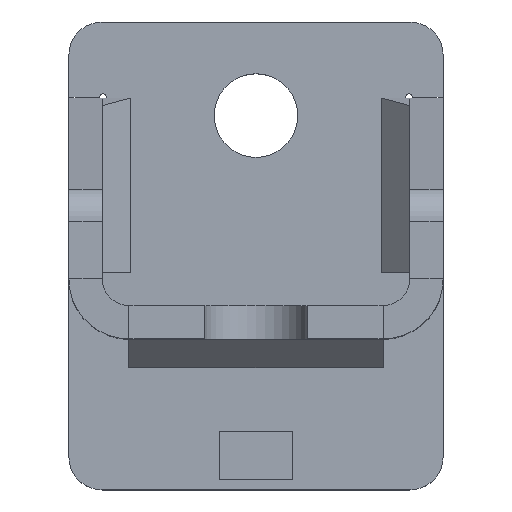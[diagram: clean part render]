
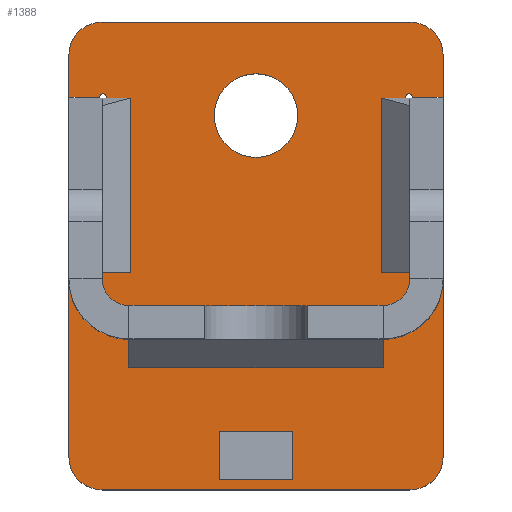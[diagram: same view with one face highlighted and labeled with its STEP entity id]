
A CAD part, top view. The second image highlights one B-rep face of the part: STEP entity #1388.
In plain terms, the highlighted planar face has unit normal (0, 0, 1).
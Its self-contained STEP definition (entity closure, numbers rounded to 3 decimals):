
#27=FACE_BOUND('',#259,.T.);
#28=FACE_BOUND('',#260,.T.);
#47=CIRCLE('',#1526,10.);
#57=CIRCLE('',#1539,10.);
#58=CIRCLE('',#1542,10.);
#59=CIRCLE('',#1544,10.);
#60=CIRCLE('',#1551,12.5);
#61=CIRCLE('',#1555,1.);
#62=CIRCLE('',#1558,1.);
#63=CIRCLE('',#1564,1.);
#64=CIRCLE('',#1567,1.);
#178=FACE_OUTER_BOUND('',#258,.T.);
#258=EDGE_LOOP('',(#1224,#1225,#1226,#1227,#1228,#1229,#1230,#1231,#1232,
#1233,#1234,#1235,#1236,#1237,#1238,#1239,#1240,#1241,#1242,#1243));
#259=EDGE_LOOP('',(#1244,#1245,#1246,#1247));
#260=EDGE_LOOP('',(#1248));
#360=LINE('',#2225,#512);
#374=LINE('',#2272,#526);
#378=LINE('',#2285,#530);
#382=LINE('',#2293,#534);
#385=LINE('',#2299,#537);
#388=LINE('',#2304,#540);
#391=LINE('',#2313,#543);
#393=LINE('',#2317,#545);
#396=LINE('',#2325,#548);
#399=LINE('',#2333,#551);
#401=LINE('',#2336,#553);
#402=LINE('',#2339,#554);
#404=LINE('',#2343,#556);
#407=LINE('',#2351,#559);
#410=LINE('',#2359,#562);
#412=LINE('',#2362,#564);
#512=VECTOR('',#1828,10.);
#526=VECTOR('',#1866,10.);
#530=VECTOR('',#1880,10.);
#534=VECTOR('',#1886,10.);
#537=VECTOR('',#1891,10.);
#540=VECTOR('',#1896,10.);
#543=VECTOR('',#1907,10.);
#545=VECTOR('',#1911,10.);
#548=VECTOR('',#1920,10.);
#551=VECTOR('',#1929,10.);
#553=VECTOR('',#1933,10.);
#554=VECTOR('',#1936,10.);
#556=VECTOR('',#1940,10.);
#559=VECTOR('',#1949,10.);
#562=VECTOR('',#1958,10.);
#564=VECTOR('',#1962,10.);
#635=VERTEX_POINT('',#2212);
#636=VERTEX_POINT('',#2213);
#640=VERTEX_POINT('',#2223);
#659=VERTEX_POINT('',#2265);
#660=VERTEX_POINT('',#2266);
#661=VERTEX_POINT('',#2271);
#662=VERTEX_POINT('',#2275);
#663=VERTEX_POINT('',#2279);
#664=VERTEX_POINT('',#2283);
#665=VERTEX_POINT('',#2284);
#668=VERTEX_POINT('',#2292);
#670=VERTEX_POINT('',#2298);
#672=VERTEX_POINT('',#2308);
#673=VERTEX_POINT('',#2312);
#674=VERTEX_POINT('',#2316);
#675=VERTEX_POINT('',#2320);
#676=VERTEX_POINT('',#2324);
#677=VERTEX_POINT('',#2328);
#678=VERTEX_POINT('',#2332);
#679=VERTEX_POINT('',#2338);
#680=VERTEX_POINT('',#2342);
#681=VERTEX_POINT('',#2346);
#682=VERTEX_POINT('',#2350);
#683=VERTEX_POINT('',#2354);
#684=VERTEX_POINT('',#2358);
#798=EDGE_CURVE('',#635,#636,#47,.T.);
#804=EDGE_CURVE('',#640,#635,#360,.T.);
#824=EDGE_CURVE('',#659,#660,#57,.T.);
#827=EDGE_CURVE('',#660,#661,#374,.T.);
#829=EDGE_CURVE('',#661,#662,#58,.T.);
#831=EDGE_CURVE('',#663,#640,#59,.T.);
#833=EDGE_CURVE('',#664,#665,#378,.T.);
#837=EDGE_CURVE('',#668,#664,#382,.T.);
#840=EDGE_CURVE('',#670,#668,#385,.T.);
#843=EDGE_CURVE('',#665,#670,#388,.T.);
#846=EDGE_CURVE('',#672,#672,#60,.T.);
#847=EDGE_CURVE('',#636,#673,#391,.T.);
#849=EDGE_CURVE('',#673,#674,#393,.T.);
#851=EDGE_CURVE('',#674,#675,#61,.T.);
#853=EDGE_CURVE('',#675,#676,#396,.T.);
#855=EDGE_CURVE('',#676,#677,#62,.T.);
#857=EDGE_CURVE('',#677,#678,#399,.T.);
#859=EDGE_CURVE('',#678,#659,#401,.T.);
#860=EDGE_CURVE('',#662,#679,#402,.T.);
#862=EDGE_CURVE('',#679,#680,#404,.T.);
#864=EDGE_CURVE('',#680,#681,#63,.T.);
#866=EDGE_CURVE('',#681,#682,#407,.T.);
#868=EDGE_CURVE('',#682,#683,#64,.T.);
#870=EDGE_CURVE('',#683,#684,#410,.T.);
#872=EDGE_CURVE('',#684,#663,#412,.T.);
#1224=ORIENTED_EDGE('',*,*,#798,.F.);
#1225=ORIENTED_EDGE('',*,*,#804,.F.);
#1226=ORIENTED_EDGE('',*,*,#831,.F.);
#1227=ORIENTED_EDGE('',*,*,#872,.F.);
#1228=ORIENTED_EDGE('',*,*,#870,.F.);
#1229=ORIENTED_EDGE('',*,*,#868,.F.);
#1230=ORIENTED_EDGE('',*,*,#866,.F.);
#1231=ORIENTED_EDGE('',*,*,#864,.F.);
#1232=ORIENTED_EDGE('',*,*,#862,.F.);
#1233=ORIENTED_EDGE('',*,*,#860,.F.);
#1234=ORIENTED_EDGE('',*,*,#829,.F.);
#1235=ORIENTED_EDGE('',*,*,#827,.F.);
#1236=ORIENTED_EDGE('',*,*,#824,.F.);
#1237=ORIENTED_EDGE('',*,*,#859,.F.);
#1238=ORIENTED_EDGE('',*,*,#857,.F.);
#1239=ORIENTED_EDGE('',*,*,#855,.F.);
#1240=ORIENTED_EDGE('',*,*,#853,.F.);
#1241=ORIENTED_EDGE('',*,*,#851,.F.);
#1242=ORIENTED_EDGE('',*,*,#849,.F.);
#1243=ORIENTED_EDGE('',*,*,#847,.F.);
#1244=ORIENTED_EDGE('',*,*,#833,.T.);
#1245=ORIENTED_EDGE('',*,*,#843,.T.);
#1246=ORIENTED_EDGE('',*,*,#840,.T.);
#1247=ORIENTED_EDGE('',*,*,#837,.T.);
#1248=ORIENTED_EDGE('',*,*,#846,.T.);
#1309=PLANE('',#1570);
#1388=ADVANCED_FACE('',(#178,#27,#28),#1309,.T.);
#1526=AXIS2_PLACEMENT_3D('',#2214,#1818,#1819);
#1539=AXIS2_PLACEMENT_3D('',#2267,#1860,#1861);
#1542=AXIS2_PLACEMENT_3D('',#2276,#1870,#1871);
#1544=AXIS2_PLACEMENT_3D('',#2280,#1875,#1876);
#1551=AXIS2_PLACEMENT_3D('',#2310,#1903,#1904);
#1555=AXIS2_PLACEMENT_3D('',#2321,#1915,#1916);
#1558=AXIS2_PLACEMENT_3D('',#2329,#1924,#1925);
#1564=AXIS2_PLACEMENT_3D('',#2347,#1944,#1945);
#1567=AXIS2_PLACEMENT_3D('',#2355,#1953,#1954);
#1570=AXIS2_PLACEMENT_3D('',#2363,#1963,#1964);
#1818=DIRECTION('center_axis',(0.,0.,-1.));
#1819=DIRECTION('ref_axis',(-0.707,0.707,0.));
#1828=DIRECTION('',(0.,1.,0.));
#1860=DIRECTION('center_axis',(0.,0.,-1.));
#1861=DIRECTION('ref_axis',(0.707,0.707,0.));
#1866=DIRECTION('',(0.,-1.,0.));
#1870=DIRECTION('center_axis',(0.,0.,-1.));
#1871=DIRECTION('ref_axis',(0.707,-0.707,0.));
#1875=DIRECTION('center_axis',(0.,0.,-1.));
#1876=DIRECTION('ref_axis',(-0.707,-0.707,0.));
#1880=DIRECTION('',(0.,1.,0.));
#1886=DIRECTION('',(-1.,0.,0.));
#1891=DIRECTION('',(0.,-1.,0.));
#1896=DIRECTION('',(1.,0.,0.));
#1903=DIRECTION('center_axis',(0.,0.,-1.));
#1904=DIRECTION('ref_axis',(-1.,0.,0.));
#1907=DIRECTION('',(1.,0.,0.));
#1911=DIRECTION('',(0.,-1.,0.));
#1915=DIRECTION('center_axis',(0.,0.,1.));
#1916=DIRECTION('ref_axis',(0.,-1.,0.));
#1920=DIRECTION('',(1.,0.,0.));
#1924=DIRECTION('center_axis',(0.,0.,1.));
#1925=DIRECTION('ref_axis',(1.,0.,0.));
#1929=DIRECTION('',(0.,1.,0.));
#1933=DIRECTION('',(1.,0.,0.));
#1936=DIRECTION('',(-1.,0.,0.));
#1940=DIRECTION('',(0.,1.,0.));
#1944=DIRECTION('center_axis',(0.,0.,1.));
#1945=DIRECTION('ref_axis',(0.,1.,0.));
#1949=DIRECTION('',(-1.,0.,0.));
#1953=DIRECTION('center_axis',(0.,0.,1.));
#1954=DIRECTION('ref_axis',(-1.,0.,0.));
#1958=DIRECTION('',(0.,-1.,0.));
#1962=DIRECTION('',(-1.,0.,0.));
#1963=DIRECTION('center_axis',(0.,0.,1.));
#1964=DIRECTION('ref_axis',(1.,0.,0.));
#2212=CARTESIAN_POINT('',(-28.,46.,10.));
#2213=CARTESIAN_POINT('',(-18.,56.,10.));
#2214=CARTESIAN_POINT('Origin',(-18.,46.,10.));
#2223=CARTESIAN_POINT('',(-28.,-46.,10.));
#2225=CARTESIAN_POINT('',(-28.,56.,10.));
#2265=CARTESIAN_POINT('',(102.,56.,10.));
#2266=CARTESIAN_POINT('',(112.,46.,10.));
#2267=CARTESIAN_POINT('Origin',(102.,46.,10.));
#2271=CARTESIAN_POINT('',(112.,-46.,10.));
#2272=CARTESIAN_POINT('',(112.,-56.,10.));
#2275=CARTESIAN_POINT('',(102.,-56.,10.));
#2276=CARTESIAN_POINT('Origin',(102.,-46.,10.));
#2279=CARTESIAN_POINT('',(-18.,-56.,10.));
#2280=CARTESIAN_POINT('Origin',(-18.,-46.,10.));
#2283=CARTESIAN_POINT('',(94.5,-11.,10.));
#2284=CARTESIAN_POINT('',(94.5,11.,10.));
#2285=CARTESIAN_POINT('',(94.5,-5.5,10.));
#2292=CARTESIAN_POINT('',(109.,-11.,10.));
#2293=CARTESIAN_POINT('',(74.223,-11.,10.));
#2298=CARTESIAN_POINT('',(109.,11.,10.));
#2299=CARTESIAN_POINT('',(109.,5.5,10.));
#2304=CARTESIAN_POINT('',(66.973,11.,10.));
#2308=CARTESIAN_POINT('',(12.5,0.,10.));
#2310=CARTESIAN_POINT('Origin',(0.,0.,10.));
#2312=CARTESIAN_POINT('',(-5.5,56.,10.));
#2313=CARTESIAN_POINT('',(-5.5,56.,10.));
#2316=CARTESIAN_POINT('',(-5.5,46.75,10.));
#2317=CARTESIAN_POINT('',(-5.5,46.75,10.));
#2320=CARTESIAN_POINT('',(-4.5,45.75,10.));
#2321=CARTESIAN_POINT('Origin',(-5.5,45.75,10.));
#2324=CARTESIAN_POINT('',(33.75,45.75,10.));
#2325=CARTESIAN_POINT('',(33.75,45.75,10.));
#2328=CARTESIAN_POINT('',(34.75,46.75,10.));
#2329=CARTESIAN_POINT('Origin',(34.75,45.75,10.));
#2332=CARTESIAN_POINT('',(34.75,56.,10.));
#2333=CARTESIAN_POINT('',(34.75,56.,10.));
#2336=CARTESIAN_POINT('',(112.,56.,10.));
#2338=CARTESIAN_POINT('',(34.75,-56.,10.));
#2339=CARTESIAN_POINT('',(34.75,-56.,10.));
#2342=CARTESIAN_POINT('',(34.75,-46.75,10.));
#2343=CARTESIAN_POINT('',(34.75,-46.75,10.));
#2346=CARTESIAN_POINT('',(33.75,-45.75,10.));
#2347=CARTESIAN_POINT('Origin',(34.75,-45.75,10.));
#2350=CARTESIAN_POINT('',(-4.5,-45.75,10.));
#2351=CARTESIAN_POINT('',(-4.5,-45.75,10.));
#2354=CARTESIAN_POINT('',(-5.5,-46.75,10.));
#2355=CARTESIAN_POINT('Origin',(-5.5,-45.75,10.));
#2358=CARTESIAN_POINT('',(-5.5,-56.,10.));
#2359=CARTESIAN_POINT('',(-5.5,-56.,10.));
#2362=CARTESIAN_POINT('',(-28.,-56.,10.));
#2363=CARTESIAN_POINT('Origin',(39.446,0.,10.));
